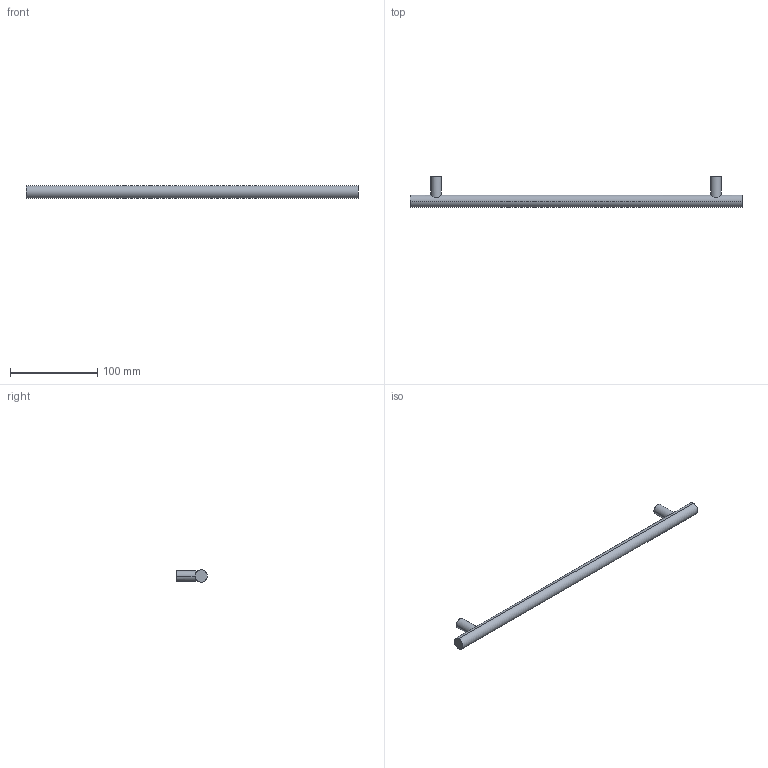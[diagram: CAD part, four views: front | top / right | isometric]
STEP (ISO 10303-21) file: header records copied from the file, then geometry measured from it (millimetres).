
FILE_DESCRIPTION( ( '' ), '1' );
FILE_NAME( 'D:/1.AUTOCAD EXPORT/Group 10/sheet_10_1/9071054.stp', '2013-10-21T10:14:41', ( '' ), ( '' ), ' ', ' ', ' ' );
FILE_SCHEMA( ( 'automotive_design' ) );
Length unit declared in the file: millimetre
Products named in the file (1): 1
Bounding box: 380 x 35 x 14 mm (x, y, z)
Volume: 63108.5 mm3; surface area: 18993 mm2
Topology: 1 solids, 1 shells, 16 faces, 32 edges, 22 vertices
Faces by surface type: cylinder 10, plane 6
Entity records: 972 total; most frequent: CARTESIAN_POINT 205, DIRECTION 76, STYLED_ITEM 71, PRESENTATION_STYLE_ASSIGNMENT 71, COLOUR_RGB 71, ORIENTED_EDGE 64, AXIS2_PLACEMENT_3D 33, EDGE_CURVE 32
